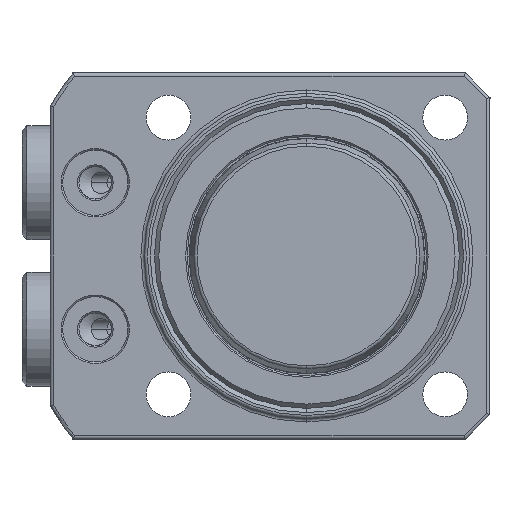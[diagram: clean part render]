
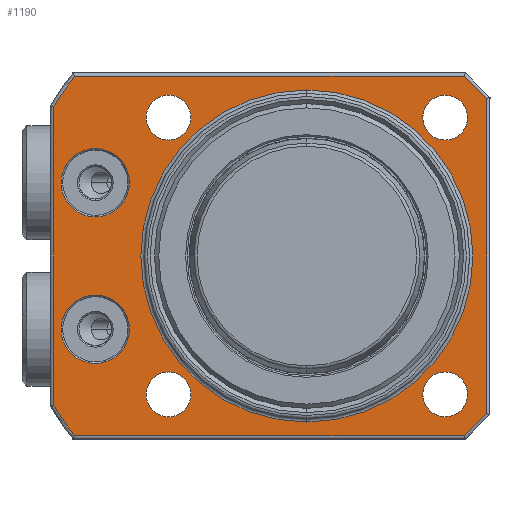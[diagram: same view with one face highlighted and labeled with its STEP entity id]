
A CAD part, front view. The second image highlights one B-rep face of the part: STEP entity #1190.
In plain terms, the highlighted planar face has unit normal (0, -1, 0) as drawn and (1, 0, 0) by its records, which use the part's own axes.
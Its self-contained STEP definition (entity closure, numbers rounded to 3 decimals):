
#837=PLANE('',#4608);
#914=FACE_BOUND('',#1680,.T.);
#915=FACE_BOUND('',#1681,.T.);
#916=FACE_BOUND('',#1682,.T.);
#917=FACE_BOUND('',#1683,.T.);
#918=FACE_BOUND('',#1684,.T.);
#919=FACE_BOUND('',#1685,.T.);
#920=FACE_BOUND('',#1686,.T.);
#921=FACE_BOUND('',#1687,.T.);
#1190=ADVANCED_FACE('',(#914,#915,#916,#917,#918,#919,#920,#921),#837,.F.);
#1680=EDGE_LOOP('',(#2479,#2480));
#1681=EDGE_LOOP('',(#2481,#2482));
#1682=EDGE_LOOP('',(#2483,#2484,#2485,#2486,#2487,#2488,#2489,#2490));
#1683=EDGE_LOOP('',(#2491,#2492));
#1684=EDGE_LOOP('',(#2493,#2494));
#1685=EDGE_LOOP('',(#2495,#2496));
#1686=EDGE_LOOP('',(#2497,#2498));
#1687=EDGE_LOOP('',(#2499,#2500));
#1952=LINE('',#6645,#2153);
#1953=LINE('',#6648,#2154);
#1954=LINE('',#6650,#2155);
#1955=LINE('',#6654,#2156);
#1956=LINE('',#6658,#2157);
#1957=LINE('',#6660,#2158);
#2153=VECTOR('',#5259,1.);
#2154=VECTOR('',#5260,1.);
#2155=VECTOR('',#5261,1.);
#2156=VECTOR('',#5264,1.);
#2157=VECTOR('',#5267,1.);
#2158=VECTOR('',#5268,1.);
#2479=ORIENTED_EDGE('',*,*,#3711,.T.);
#2480=ORIENTED_EDGE('',*,*,#3870,.T.);
#2481=ORIENTED_EDGE('',*,*,#3706,.T.);
#2482=ORIENTED_EDGE('',*,*,#3871,.T.);
#2483=ORIENTED_EDGE('',*,*,#3872,.T.);
#2484=ORIENTED_EDGE('',*,*,#3873,.T.);
#2485=ORIENTED_EDGE('',*,*,#3874,.T.);
#2486=ORIENTED_EDGE('',*,*,#3875,.T.);
#2487=ORIENTED_EDGE('',*,*,#3876,.T.);
#2488=ORIENTED_EDGE('',*,*,#3877,.T.);
#2489=ORIENTED_EDGE('',*,*,#3878,.T.);
#2490=ORIENTED_EDGE('',*,*,#3879,.T.);
#2491=ORIENTED_EDGE('',*,*,#3880,.T.);
#2492=ORIENTED_EDGE('',*,*,#3728,.T.);
#2493=ORIENTED_EDGE('',*,*,#3881,.T.);
#2494=ORIENTED_EDGE('',*,*,#3817,.T.);
#2495=ORIENTED_EDGE('',*,*,#3882,.T.);
#2496=ORIENTED_EDGE('',*,*,#3825,.T.);
#2497=ORIENTED_EDGE('',*,*,#3883,.T.);
#2498=ORIENTED_EDGE('',*,*,#3833,.T.);
#2499=ORIENTED_EDGE('',*,*,#3884,.T.);
#2500=ORIENTED_EDGE('',*,*,#3841,.T.);
#3367=VERTEX_POINT('',#6100);
#3368=VERTEX_POINT('',#6102);
#3372=VERTEX_POINT('',#6111);
#3373=VERTEX_POINT('',#6113);
#3389=VERTEX_POINT('',#6150);
#3390=VERTEX_POINT('',#6151);
#3459=VERTEX_POINT('',#6472);
#3460=VERTEX_POINT('',#6473);
#3467=VERTEX_POINT('',#6499);
#3468=VERTEX_POINT('',#6500);
#3475=VERTEX_POINT('',#6526);
#3476=VERTEX_POINT('',#6527);
#3483=VERTEX_POINT('',#6553);
#3484=VERTEX_POINT('',#6554);
#3499=VERTEX_POINT('',#6646);
#3500=VERTEX_POINT('',#6647);
#3501=VERTEX_POINT('',#6649);
#3502=VERTEX_POINT('',#6651);
#3503=VERTEX_POINT('',#6653);
#3504=VERTEX_POINT('',#6655);
#3505=VERTEX_POINT('',#6657);
#3506=VERTEX_POINT('',#6659);
#3706=EDGE_CURVE('',#3368,#3367,#4244,.T.);
#3711=EDGE_CURVE('',#3373,#3372,#4247,.T.);
#3728=EDGE_CURVE('',#3389,#3390,#4259,.T.);
#3817=EDGE_CURVE('',#3459,#3460,#4299,.T.);
#3825=EDGE_CURVE('',#3467,#3468,#4302,.T.);
#3833=EDGE_CURVE('',#3475,#3476,#4305,.T.);
#3841=EDGE_CURVE('',#3483,#3484,#4308,.T.);
#3870=EDGE_CURVE('',#3372,#3373,#4320,.T.);
#3871=EDGE_CURVE('',#3367,#3368,#4321,.T.);
#3872=EDGE_CURVE('',#3499,#3500,#1952,.T.);
#3873=EDGE_CURVE('',#3500,#3501,#1953,.T.);
#3874=EDGE_CURVE('',#3501,#3502,#1954,.T.);
#3875=EDGE_CURVE('',#3502,#3503,#4322,.T.);
#3876=EDGE_CURVE('',#3503,#3504,#1955,.T.);
#3877=EDGE_CURVE('',#3504,#3505,#4323,.T.);
#3878=EDGE_CURVE('',#3505,#3506,#1956,.T.);
#3879=EDGE_CURVE('',#3506,#3499,#1957,.T.);
#3880=EDGE_CURVE('',#3390,#3389,#4324,.T.);
#3881=EDGE_CURVE('',#3460,#3459,#4325,.T.);
#3882=EDGE_CURVE('',#3468,#3467,#4326,.T.);
#3883=EDGE_CURVE('',#3476,#3475,#4327,.T.);
#3884=EDGE_CURVE('',#3484,#3483,#4328,.T.);
#4244=CIRCLE('',#4483,4.2);
#4247=CIRCLE('',#4487,4.2);
#4259=CIRCLE('',#4503,20.4);
#4299=CIRCLE('',#4565,2.75);
#4302=CIRCLE('',#4570,2.75);
#4305=CIRCLE('',#4575,2.75);
#4308=CIRCLE('',#4580,2.75);
#4320=CIRCLE('',#4599,4.2);
#4321=CIRCLE('',#4600,4.2);
#4322=CIRCLE('',#4601,36.1);
#4323=CIRCLE('',#4602,36.1);
#4324=CIRCLE('',#4603,20.4);
#4325=CIRCLE('',#4604,2.75);
#4326=CIRCLE('',#4605,2.75);
#4327=CIRCLE('',#4606,2.75);
#4328=CIRCLE('',#4607,2.75);
#4483=AXIS2_PLACEMENT_3D('',#6101,#4957,#4958);
#4487=AXIS2_PLACEMENT_3D('',#6112,#4967,#4968);
#4503=AXIS2_PLACEMENT_3D('',#6149,#5004,#5005);
#4565=AXIS2_PLACEMENT_3D('',#6471,#5166,#5167);
#4570=AXIS2_PLACEMENT_3D('',#6498,#5180,#5181);
#4575=AXIS2_PLACEMENT_3D('',#6525,#5194,#5195);
#4580=AXIS2_PLACEMENT_3D('',#6552,#5208,#5209);
#4599=AXIS2_PLACEMENT_3D('',#6643,#5255,#5256);
#4600=AXIS2_PLACEMENT_3D('',#6644,#5257,#5258);
#4601=AXIS2_PLACEMENT_3D('',#6652,#5262,#5263);
#4602=AXIS2_PLACEMENT_3D('',#6656,#5265,#5266);
#4603=AXIS2_PLACEMENT_3D('',#6661,#5269,#5270);
#4604=AXIS2_PLACEMENT_3D('',#6662,#5271,#5272);
#4605=AXIS2_PLACEMENT_3D('',#6663,#5273,#5274);
#4606=AXIS2_PLACEMENT_3D('',#6664,#5275,#5276);
#4607=AXIS2_PLACEMENT_3D('',#6665,#5277,#5278);
#4608=AXIS2_PLACEMENT_3D('',#6666,#5279,#5280);
#4957=DIRECTION('',(-1.,0.,0.));
#4958=DIRECTION('',(0.,0.,1.));
#4967=DIRECTION('',(-1.,0.,0.));
#4968=DIRECTION('',(0.,0.,1.));
#5004=DIRECTION('',(-1.,0.,0.));
#5005=DIRECTION('',(0.,0.,1.));
#5166=DIRECTION('',(-1.,0.,0.));
#5167=DIRECTION('',(0.,0.,1.));
#5180=DIRECTION('',(-1.,0.,0.));
#5181=DIRECTION('',(0.,0.,1.));
#5194=DIRECTION('',(-1.,0.,0.));
#5195=DIRECTION('',(0.,0.,1.));
#5208=DIRECTION('',(-1.,0.,0.));
#5209=DIRECTION('',(0.,0.,1.));
#5255=DIRECTION('',(-1.,0.,0.));
#5256=DIRECTION('',(0.,0.,1.));
#5257=DIRECTION('',(-1.,0.,0.));
#5258=DIRECTION('',(0.,0.,1.));
#5259=DIRECTION('',(0.,0.,1.));
#5260=DIRECTION('',(0.,-0.707,0.707));
#5261=DIRECTION('',(0.,-1.,0.));
#5262=DIRECTION('',(1.,0.,0.));
#5263=DIRECTION('',(0.,0.,1.));
#5264=DIRECTION('',(0.,0.,-1.));
#5265=DIRECTION('',(1.,0.,0.));
#5266=DIRECTION('',(0.,0.,1.));
#5267=DIRECTION('',(0.,1.,0.));
#5268=DIRECTION('',(0.,0.707,0.707));
#5269=DIRECTION('',(-1.,0.,0.));
#5270=DIRECTION('',(0.,0.,1.));
#5271=DIRECTION('',(-1.,0.,0.));
#5272=DIRECTION('',(0.,0.,1.));
#5273=DIRECTION('',(-1.,0.,0.));
#5274=DIRECTION('',(0.,0.,1.));
#5275=DIRECTION('',(-1.,0.,0.));
#5276=DIRECTION('',(0.,0.,1.));
#5277=DIRECTION('',(-1.,0.,0.));
#5278=DIRECTION('',(0.,0.,1.));
#5279=DIRECTION('',(-1.,0.,0.));
#5280=DIRECTION('',(0.,0.,-1.));
#6100=CARTESIAN_POINT('',(0.,-26.,13.2));
#6101=CARTESIAN_POINT('',(0.,-26.,9.));
#6102=CARTESIAN_POINT('',(0.,-26.,4.8));
#6111=CARTESIAN_POINT('',(0.,-26.,-4.8));
#6112=CARTESIAN_POINT('',(0.,-26.,-9.));
#6113=CARTESIAN_POINT('',(0.,-26.,-13.2));
#6149=CARTESIAN_POINT('',(0.,0.,0.));
#6150=CARTESIAN_POINT('',(0.,0.,-20.4));
#6151=CARTESIAN_POINT('',(0.,0.,20.4));
#6471=CARTESIAN_POINT('',(0.,17.,-17.));
#6472=CARTESIAN_POINT('',(0.,17.,-19.75));
#6473=CARTESIAN_POINT('',(0.,17.,-14.25));
#6498=CARTESIAN_POINT('',(0.,17.,17.));
#6499=CARTESIAN_POINT('',(0.,17.,14.25));
#6500=CARTESIAN_POINT('',(0.,17.,19.75));
#6525=CARTESIAN_POINT('',(0.,-17.,17.));
#6526=CARTESIAN_POINT('',(0.,-17.,14.25));
#6527=CARTESIAN_POINT('',(0.,-17.,19.75));
#6552=CARTESIAN_POINT('',(0.,-17.,-17.));
#6553=CARTESIAN_POINT('',(0.,-17.,-19.75));
#6554=CARTESIAN_POINT('',(0.,-17.,-14.25));
#6643=CARTESIAN_POINT('',(0.,-26.,-9.));
#6644=CARTESIAN_POINT('',(0.,-26.,9.));
#6645=CARTESIAN_POINT('',(0.,22.1,19.5));
#6646=CARTESIAN_POINT('',(0.,22.1,-19.334));
#6647=CARTESIAN_POINT('',(0.,22.1,19.334));
#6648=CARTESIAN_POINT('',(0.,19.217,22.217));
#6649=CARTESIAN_POINT('',(0.,19.334,22.1));
#6650=CARTESIAN_POINT('',(0.,-28.74,22.1));
#6651=CARTESIAN_POINT('',(0.,-28.545,22.1));
#6652=CARTESIAN_POINT('',(0.,0.,0.));
#6653=CARTESIAN_POINT('',(0.,-31.1,18.33));
#6654=CARTESIAN_POINT('',(0.,-31.1,-18.439));
#6655=CARTESIAN_POINT('',(0.,-31.1,-18.33));
#6656=CARTESIAN_POINT('',(0.,0.,0.));
#6657=CARTESIAN_POINT('',(0.,-28.545,-22.1));
#6658=CARTESIAN_POINT('',(0.,19.5,-22.1));
#6659=CARTESIAN_POINT('',(0.,19.334,-22.1));
#6660=CARTESIAN_POINT('',(0.,22.217,-19.217));
#6661=CARTESIAN_POINT('',(0.,0.,0.));
#6662=CARTESIAN_POINT('',(0.,17.,-17.));
#6663=CARTESIAN_POINT('',(0.,17.,17.));
#6664=CARTESIAN_POINT('',(0.,-17.,17.));
#6665=CARTESIAN_POINT('',(0.,-17.,-17.));
#6666=CARTESIAN_POINT('',(0.,0.,0.));
